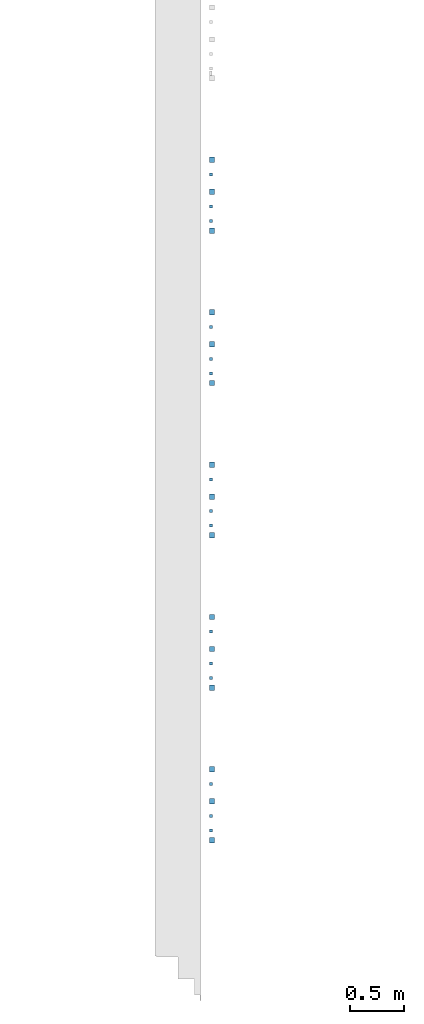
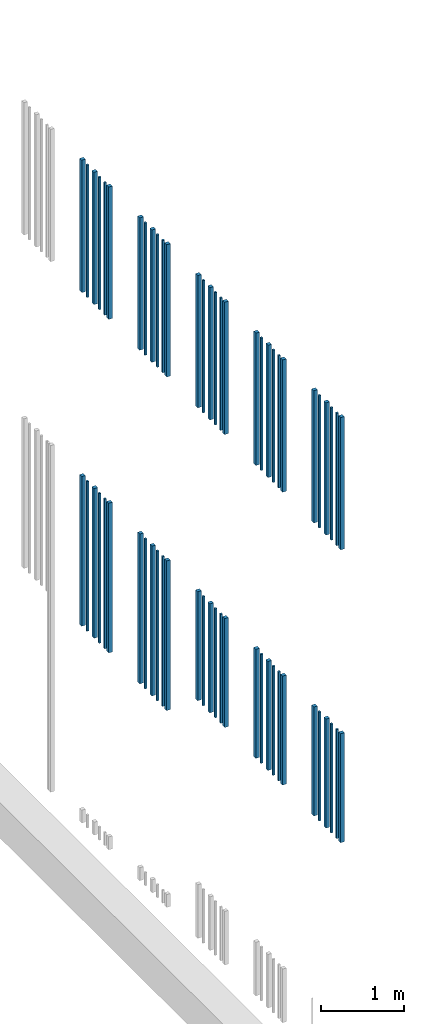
# One storey, part 21 of 124: 60 walls.
"""IFC2X3 building model written with IfcOpenShell, lengths in millimetres."""

from ifc_helpers import new_model, entity, si_unit, converted_unit, derived_unit, money_unit, direction, frame, origin_with_axes, place, context, subcontext, project, spatial, faceted_brep, material, type_object, element, save


model = new_model("IFC2X3")

# Units and contexts
model_context = context("Model", 3, precision=1e-05, world=origin_with_axes(), true_north=direction((0.0, 1.0)))
body_context = subcontext(model_context, "Body", "Model", "MODEL_VIEW")
ifc_project = project(units=[si_unit("LENGTHUNIT", "METRE", prefix="MILLI"), si_unit("AREAUNIT", "SQUARE_METRE"), si_unit("VOLUMEUNIT", "CUBIC_METRE"), converted_unit("PLANEANGLEUNIT", "DEGREE", entity("IfcPlaneAngleMeasure", 0.0174532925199), si_unit("PLANEANGLEUNIT", "RADIAN"), dimensions=[0, 0, 0, 0, 0, 0, 0]), si_unit("SOLIDANGLEUNIT", "STERADIAN"), money_unit("EUR"), converted_unit("TIMEUNIT", "Year", entity("IfcTimeMeasure", 31556926.0), si_unit("TIMEUNIT", "SECOND"), dimensions=[0, 0, 1, 0, 0, 0, 0]), si_unit("MASSUNIT", "GRAM", prefix="KILO"), si_unit("THERMODYNAMICTEMPERATUREUNIT", "DEGREE_CELSIUS"), si_unit("LUMINOUSINTENSITYUNIT", "LUMEN"), si_unit("ENERGYUNIT", "JOULE", prefix="MEGA"), derived_unit("THERMALCONDUCTANCEUNIT", [(si_unit("POWERUNIT", "WATT"), 1), (si_unit("LENGTHUNIT", "METRE"), -1), (si_unit("THERMODYNAMICTEMPERATUREUNIT", "KELVIN"), -1)]), derived_unit("SPECIFICHEATCAPACITYUNIT", [(si_unit("ENERGYUNIT", "JOULE"), 1), (si_unit("MASSUNIT", "GRAM", prefix="KILO"), -1), (si_unit("THERMODYNAMICTEMPERATUREUNIT", "KELVIN"), -1)]), derived_unit("MASSDENSITYUNIT", [(si_unit("MASSUNIT", "GRAM", prefix="KILO"), 1), (si_unit("VOLUMEUNIT", "CUBIC_METRE"), -1)])], contexts=[model_context])

# Site, building, storey
site_placement = place(None, origin_with_axes())
site = spatial("IfcSite", under=ifc_project, at=site_placement, Name="Site", CompositionType="ELEMENT")
building_placement = place(site_placement, origin_with_axes())
building = spatial("IfcBuilding", under=site, at=building_placement, Name="Building", CompositionType="ELEMENT")
storey_placement = place(building_placement, frame((0.0, 0.0, -1615.0), z_axis=(0.0, 0.0, 1.0), x_axis=(1.0, 0.0, 0.0)))
storey = spatial("IfcBuildingStorey", under=building, at=storey_placement, Name="0  korrus", CompositionType="ELEMENT", Elevation=-1615.0)

# Walls
ifc_material = material(Name="Site specified")
wall_type = type_object("IfcWallType", Name="Puitfassaadi ribistik", PredefinedType="NOTDEFINED")
wall_1_placement = place(storey_placement, frame((139811.999996, 47474.806266, 5215.0), z_axis=(0.0, 0.0, 1.0), x_axis=(5.16795808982e-08, -1.0, 0.0)))
element("IfcWall", 1, at=wall_1_placement, inside=storey, type_object=wall_type, material=ifc_material, Name="Site specified", context=body_context, shape_type="Brep", body=[
    faceted_brep([(25.0, 25.0, 1606.0), (25.0, 25.0, 0.0), (-25.0, 25.0, 0.0), (-25.0, 25.0, 1606.0), (25.0, -25.0, 1606.0), (25.0, -25.0, 0.0), (-25.0, -25.0, 0.0), (-25.0, -25.0, 1606.0)], [[[0, 1, 2, 3]], [[4, 5, 1, 0]], [[2, 1, 5, 6]], [[3, 2, 6, 7]], [[4, 0, 3, 7]], [[7, 6, 5, 4]]]),
])
for number, where, z_axis, x_axis, name in (
    (2, (139801.000003, 47339.803775, 5215.0), (0.0, 0.0, 1.0), (5.16795808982e-08, -1.0, 0.0), "Site specified"),
    (3, (139801.000025, 46913.8038047, 5215.0), (0.0, 0.0, 1.0), (5.16795808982e-08, -1.0, 0.0), "Site specified"),
    (4, (139801.000018, 47046.8038039, 5215.0), (0.0, 0.0, 1.0), (5.16795808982e-08, -1.0, 0.0), "Site specified"),
):
    element("IfcWall", number, at=place(storey_placement, frame(where, z_axis=z_axis, x_axis=x_axis)), inside=storey, type_object=wall_type, material=ifc_material, Name=name, context=body_context, shape_type="Brep", body=[
        faceted_brep([(14.0, 14.0, 1606.0), (14.0, 14.0, 0.0), (-14.0, 14.0, 0.0), (-14.0, 14.0, 1606.0), (14.0, -14.0, 1606.0), (14.0, -14.0, 0.0), (-14.0, -14.0, 0.0), (-14.0, -14.0, 1606.0)], [[[0, 1, 2, 3]], [[4, 5, 1, 0]], [[2, 1, 5, 6]], [[3, 2, 6, 7]], [[4, 0, 3, 7]], [[7, 6, 5, 4]]]),
    ])
for number, where, z_axis, x_axis, name in (
    (5, (139812.000029, 46824.8006349, 5215.0), (0.0, 0.0, 1.0), (5.16795808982e-08, -1.0, 0.0), "Site specified"),
    (6, (139812.000011, 47180.8062682, 5215.0), (0.0, 0.0, 1.0), (5.16795808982e-08, -1.0, 0.0), "Site specified"),
):
    element("IfcWall", number, at=place(storey_placement, frame(where, z_axis=z_axis, x_axis=x_axis)), inside=storey, type_object=wall_type, material=ifc_material, Name=name, context=body_context, shape_type="Brep", body=[
        faceted_brep([(25.0, 25.0, 1606.0), (25.0, 25.0, 0.0), (-25.0, 25.0, 0.0), (-25.0, 25.0, 1606.0), (25.0, -25.0, 1606.0), (25.0, -25.0, 0.0), (-25.0, -25.0, 0.0), (-25.0, -25.0, 1606.0)], [[[0, 1, 2, 3]], [[4, 5, 1, 0]], [[2, 1, 5, 6]], [[3, 2, 6, 7]], [[4, 0, 3, 7]], [[7, 6, 5, 4]]]),
    ])
wall_2_placement = place(storey_placement, frame((139811.999996, 47474.806266, 9530.0), z_axis=(0.0, 0.0, 1.0), x_axis=(5.16795808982e-08, -1.0, 0.0)))
element("IfcWall", 7, at=wall_2_placement, inside=storey, type_object=wall_type, material=ifc_material, Name="Site specified", context=body_context, shape_type="Brep", body=[
    faceted_brep([(25.0, 25.0, 1950.0), (25.0, 25.0, 0.0), (-25.0, 25.0, 0.0), (-25.0, 25.0, 1950.0), (25.0, -25.0, 1950.0), (25.0, -25.0, 0.0), (-25.0, -25.0, 0.0), (-25.0, -25.0, 1950.0)], [[[0, 1, 2, 3]], [[4, 5, 1, 0]], [[2, 1, 5, 6]], [[3, 2, 6, 7]], [[4, 0, 3, 7]], [[7, 6, 5, 4]]]),
])
for number, where, z_axis, x_axis, name in (
    (8, (139801.000003, 47339.803775, 9530.0), (0.0, 0.0, 1.0), (5.16795808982e-08, -1.0, 0.0), "Site specified"),
    (9, (139801.000025, 46913.8038047, 9530.0), (0.0, 0.0, 1.0), (5.16795808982e-08, -1.0, 0.0), "Site specified"),
    (10, (139801.000018, 47046.8038039, 9530.0), (0.0, 0.0, 1.0), (5.16795808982e-08, -1.0, 0.0), "Site specified"),
):
    element("IfcWall", number, at=place(storey_placement, frame(where, z_axis=z_axis, x_axis=x_axis)), inside=storey, type_object=wall_type, material=ifc_material, Name=name, context=body_context, shape_type="Brep", body=[
        faceted_brep([(14.0, 14.0, 1950.0), (14.0, 14.0, 0.0), (-14.0, 14.0, 0.0), (-14.0, 14.0, 1950.0), (14.0, -14.0, 1950.0), (14.0, -14.0, 0.0), (-14.0, -14.0, 0.0), (-14.0, -14.0, 1950.0)], [[[0, 1, 2, 3]], [[4, 5, 1, 0]], [[2, 1, 5, 6]], [[3, 2, 6, 7]], [[4, 0, 3, 7]], [[7, 6, 5, 4]]]),
    ])
for number, where, z_axis, x_axis, name in (
    (11, (139812.000029, 46824.8006349, 9530.0), (0.0, 0.0, 1.0), (5.16795808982e-08, -1.0, 0.0), "Site specified"),
    (12, (139812.000011, 47180.8062682, 9530.0), (0.0, 0.0, 1.0), (5.16795808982e-08, -1.0, 0.0), "Site specified"),
    (13, (139812.000011, 49980.8062682, 9530.0), (0.0, 0.0, 1.0), (5.16795808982e-08, -1.0, 0.0), "Site specified"),
):
    element("IfcWall", number, at=place(storey_placement, frame(where, z_axis=z_axis, x_axis=x_axis)), inside=storey, type_object=wall_type, material=ifc_material, Name=name, context=body_context, shape_type="Brep", body=[
        faceted_brep([(25.0, 25.0, 1950.0), (25.0, 25.0, 0.0), (-25.0, 25.0, 0.0), (-25.0, 25.0, 1950.0), (25.0, -25.0, 1950.0), (25.0, -25.0, 0.0), (-25.0, -25.0, 0.0), (-25.0, -25.0, 1950.0)], [[[0, 1, 2, 3]], [[4, 5, 1, 0]], [[2, 1, 5, 6]], [[3, 2, 6, 7]], [[4, 0, 3, 7]], [[7, 6, 5, 4]]]),
    ])
wall_3_placement = place(storey_placement, frame((139811.999996, 48874.806266, 5215.0), z_axis=(0.0, 0.0, 1.0), x_axis=(5.16795808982e-08, -1.0, 0.0)))
element("IfcWall", 14, at=wall_3_placement, inside=storey, type_object=wall_type, material=ifc_material, Name="Site specified", context=body_context, shape_type="Brep", body=[
    faceted_brep([(25.0, 25.0, 1606.0), (25.0, 25.0, 0.0), (-25.0, 25.0, 0.0), (-25.0, 25.0, 1606.0), (25.0, -25.0, 1606.0), (25.0, -25.0, 0.0), (-25.0, -25.0, 0.0), (-25.0, -25.0, 1606.0)], [[[0, 1, 2, 3]], [[4, 5, 1, 0]], [[2, 1, 5, 6]], [[3, 2, 6, 7]], [[4, 0, 3, 7]], [[7, 6, 5, 4]]]),
])
for number, where, z_axis, x_axis, name in (
    (15, (139801.000003, 48739.803775, 5215.0), (0.0, 0.0, 1.0), (5.16795808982e-08, -1.0, 0.0), "Site specified"),
    (16, (139801.000025, 48313.8038047, 5215.0), (0.0, 0.0, 1.0), (5.16795808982e-08, -1.0, 0.0), "Site specified"),
    (17, (139801.000018, 48446.8038039, 5215.0), (0.0, 0.0, 1.0), (5.16795808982e-08, -1.0, 0.0), "Site specified"),
):
    element("IfcWall", number, at=place(storey_placement, frame(where, z_axis=z_axis, x_axis=x_axis)), inside=storey, type_object=wall_type, material=ifc_material, Name=name, context=body_context, shape_type="Brep", body=[
        faceted_brep([(14.0, 14.0, 1606.0), (14.0, 14.0, 0.0), (-14.0, 14.0, 0.0), (-14.0, 14.0, 1606.0), (14.0, -14.0, 1606.0), (14.0, -14.0, 0.0), (-14.0, -14.0, 0.0), (-14.0, -14.0, 1606.0)], [[[0, 1, 2, 3]], [[4, 5, 1, 0]], [[2, 1, 5, 6]], [[3, 2, 6, 7]], [[4, 0, 3, 7]], [[7, 6, 5, 4]]]),
    ])
for number, where, z_axis, x_axis, name in (
    (18, (139812.00003, 48224.8006349, 5215.0), (0.0, 0.0, 1.0), (5.16795808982e-08, -1.0, 0.0), "Site specified"),
    (19, (139812.000011, 48580.8062682, 5215.0), (0.0, 0.0, 1.0), (5.16795808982e-08, -1.0, 0.0), "Site specified"),
):
    element("IfcWall", number, at=place(storey_placement, frame(where, z_axis=z_axis, x_axis=x_axis)), inside=storey, type_object=wall_type, material=ifc_material, Name=name, context=body_context, shape_type="Brep", body=[
        faceted_brep([(25.0, 25.0, 1606.0), (25.0, 25.0, 0.0), (-25.0, 25.0, 0.0), (-25.0, 25.0, 1606.0), (25.0, -25.0, 1606.0), (25.0, -25.0, 0.0), (-25.0, -25.0, 0.0), (-25.0, -25.0, 1606.0)], [[[0, 1, 2, 3]], [[4, 5, 1, 0]], [[2, 1, 5, 6]], [[3, 2, 6, 7]], [[4, 0, 3, 7]], [[7, 6, 5, 4]]]),
    ])
wall_4_placement = place(storey_placement, frame((139811.999996, 48874.806266, 9530.0), z_axis=(0.0, 0.0, 1.0), x_axis=(5.16795808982e-08, -1.0, 0.0)))
element("IfcWall", 20, at=wall_4_placement, inside=storey, type_object=wall_type, material=ifc_material, Name="Site specified", context=body_context, shape_type="Brep", body=[
    faceted_brep([(25.0, 25.0, 1950.0), (25.0, 25.0, 0.0), (-25.0, 25.0, 0.0), (-25.0, 25.0, 1950.0), (25.0, -25.0, 1950.0), (25.0, -25.0, 0.0), (-25.0, -25.0, 0.0), (-25.0, -25.0, 1950.0)], [[[0, 1, 2, 3]], [[4, 5, 1, 0]], [[2, 1, 5, 6]], [[3, 2, 6, 7]], [[4, 0, 3, 7]], [[7, 6, 5, 4]]]),
])
for number, where, z_axis, x_axis, name in (
    (21, (139801.000003, 48739.803775, 9530.0), (0.0, 0.0, 1.0), (5.16795808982e-08, -1.0, 0.0), "Site specified"),
    (22, (139801.000025, 48313.8038047, 9530.0), (0.0, 0.0, 1.0), (5.16795808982e-08, -1.0, 0.0), "Site specified"),
    (23, (139801.000018, 48446.8038039, 9530.0), (0.0, 0.0, 1.0), (5.16795808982e-08, -1.0, 0.0), "Site specified"),
):
    element("IfcWall", number, at=place(storey_placement, frame(where, z_axis=z_axis, x_axis=x_axis)), inside=storey, type_object=wall_type, material=ifc_material, Name=name, context=body_context, shape_type="Brep", body=[
        faceted_brep([(14.0, 14.0, 1950.0), (14.0, 14.0, 0.0), (-14.0, 14.0, 0.0), (-14.0, 14.0, 1950.0), (14.0, -14.0, 1950.0), (14.0, -14.0, 0.0), (-14.0, -14.0, 0.0), (-14.0, -14.0, 1950.0)], [[[0, 1, 2, 3]], [[4, 5, 1, 0]], [[2, 1, 5, 6]], [[3, 2, 6, 7]], [[4, 0, 3, 7]], [[7, 6, 5, 4]]]),
    ])
for number, where, z_axis, x_axis, name in (
    (24, (139812.00003, 48224.8006349, 9530.0), (0.0, 0.0, 1.0), (5.16795808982e-08, -1.0, 0.0), "Site specified"),
    (25, (139812.000011, 48580.8062682, 9530.0), (0.0, 0.0, 1.0), (5.16795808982e-08, -1.0, 0.0), "Site specified"),
):
    element("IfcWall", number, at=place(storey_placement, frame(where, z_axis=z_axis, x_axis=x_axis)), inside=storey, type_object=wall_type, material=ifc_material, Name=name, context=body_context, shape_type="Brep", body=[
        faceted_brep([(25.0, 25.0, 1950.0), (25.0, 25.0, 0.0), (-25.0, 25.0, 0.0), (-25.0, 25.0, 1950.0), (25.0, -25.0, 1950.0), (25.0, -25.0, 0.0), (-25.0, -25.0, 0.0), (-25.0, -25.0, 1950.0)], [[[0, 1, 2, 3]], [[4, 5, 1, 0]], [[2, 1, 5, 6]], [[3, 2, 6, 7]], [[4, 0, 3, 7]], [[7, 6, 5, 4]]]),
    ])
wall_5_placement = place(storey_placement, frame((139811.999996, 50274.806266, 5215.0), z_axis=(0.0, 0.0, 1.0), x_axis=(5.16795808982e-08, -1.0, 0.0)))
element("IfcWall", 26, at=wall_5_placement, inside=storey, type_object=wall_type, material=ifc_material, Name="Site specified", context=body_context, shape_type="Brep", body=[
    faceted_brep([(25.0, 25.0, 1606.0), (25.0, 25.0, 0.0), (-25.0, 25.0, 0.0), (-25.0, 25.0, 1606.0), (25.0, -25.0, 1606.0), (25.0, -25.0, 0.0), (-25.0, -25.0, 0.0), (-25.0, -25.0, 1606.0)], [[[0, 1, 2, 3]], [[4, 5, 1, 0]], [[2, 1, 5, 6]], [[3, 2, 6, 7]], [[4, 0, 3, 7]], [[7, 6, 5, 4]]]),
])
for number, where, z_axis, x_axis, name in (
    (27, (139801.000003, 50139.803775, 5215.0), (0.0, 0.0, 1.0), (5.16795808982e-08, -1.0, 0.0), "Site specified"),
    (28, (139801.000025, 49713.8038047, 5215.0), (0.0, 0.0, 1.0), (5.16795808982e-08, -1.0, 0.0), "Site specified"),
    (29, (139801.000018, 49846.8038039, 5215.0), (0.0, 0.0, 1.0), (5.16795808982e-08, -1.0, 0.0), "Site specified"),
):
    element("IfcWall", number, at=place(storey_placement, frame(where, z_axis=z_axis, x_axis=x_axis)), inside=storey, type_object=wall_type, material=ifc_material, Name=name, context=body_context, shape_type="Brep", body=[
        faceted_brep([(14.0, 14.0, 1606.0), (14.0, 14.0, 0.0), (-14.0, 14.0, 0.0), (-14.0, 14.0, 1606.0), (14.0, -14.0, 1606.0), (14.0, -14.0, 0.0), (-14.0, -14.0, 0.0), (-14.0, -14.0, 1606.0)], [[[0, 1, 2, 3]], [[4, 5, 1, 0]], [[2, 1, 5, 6]], [[3, 2, 6, 7]], [[4, 0, 3, 7]], [[7, 6, 5, 4]]]),
    ])
for number, where, z_axis, x_axis, name in (
    (30, (139812.000029, 49624.8006349, 5215.0), (0.0, 0.0, 1.0), (5.16795808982e-08, -1.0, 0.0), "Site specified"),
    (31, (139812.000011, 49980.8062682, 5215.0), (0.0, 0.0, 1.0), (5.16795808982e-08, -1.0, 0.0), "Site specified"),
):
    element("IfcWall", number, at=place(storey_placement, frame(where, z_axis=z_axis, x_axis=x_axis)), inside=storey, type_object=wall_type, material=ifc_material, Name=name, context=body_context, shape_type="Brep", body=[
        faceted_brep([(25.0, 25.0, 1606.0), (25.0, 25.0, 0.0), (-25.0, 25.0, 0.0), (-25.0, 25.0, 1606.0), (25.0, -25.0, 1606.0), (25.0, -25.0, 0.0), (-25.0, -25.0, 0.0), (-25.0, -25.0, 1606.0)], [[[0, 1, 2, 3]], [[4, 5, 1, 0]], [[2, 1, 5, 6]], [[3, 2, 6, 7]], [[4, 0, 3, 7]], [[7, 6, 5, 4]]]),
    ])
wall_6_placement = place(storey_placement, frame((139811.999996, 50274.806266, 9530.0), z_axis=(0.0, 0.0, 1.0), x_axis=(5.16795808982e-08, -1.0, 0.0)))
element("IfcWall", 32, at=wall_6_placement, inside=storey, type_object=wall_type, material=ifc_material, Name="Site specified", context=body_context, shape_type="Brep", body=[
    faceted_brep([(25.0, 25.0, 1950.0), (25.0, 25.0, 0.0), (-25.0, 25.0, 0.0), (-25.0, 25.0, 1950.0), (25.0, -25.0, 1950.0), (25.0, -25.0, 0.0), (-25.0, -25.0, 0.0), (-25.0, -25.0, 1950.0)], [[[0, 1, 2, 3]], [[4, 5, 1, 0]], [[2, 1, 5, 6]], [[3, 2, 6, 7]], [[4, 0, 3, 7]], [[7, 6, 5, 4]]]),
])
for number, where, z_axis, x_axis, name in (
    (33, (139801.000003, 50139.803775, 9530.0), (0.0, 0.0, 1.0), (5.16795808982e-08, -1.0, 0.0), "Site specified"),
    (34, (139801.000025, 49713.8038047, 9530.0), (0.0, 0.0, 1.0), (5.16795808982e-08, -1.0, 0.0), "Site specified"),
    (35, (139801.000018, 49846.8038039, 9530.0), (0.0, 0.0, 1.0), (5.16795808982e-08, -1.0, 0.0), "Site specified"),
):
    element("IfcWall", number, at=place(storey_placement, frame(where, z_axis=z_axis, x_axis=x_axis)), inside=storey, type_object=wall_type, material=ifc_material, Name=name, context=body_context, shape_type="Brep", body=[
        faceted_brep([(14.0, 14.0, 1950.0), (14.0, 14.0, 0.0), (-14.0, 14.0, 0.0), (-14.0, 14.0, 1950.0), (14.0, -14.0, 1950.0), (14.0, -14.0, 0.0), (-14.0, -14.0, 0.0), (-14.0, -14.0, 1950.0)], [[[0, 1, 2, 3]], [[4, 5, 1, 0]], [[2, 1, 5, 6]], [[3, 2, 6, 7]], [[4, 0, 3, 7]], [[7, 6, 5, 4]]]),
    ])
for number, where, z_axis, x_axis, name in (
    (36, (139812.000029, 49624.8006349, 9530.0), (0.0, 0.0, 1.0), (5.16795808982e-08, -1.0, 0.0), "Site specified"),
    (37, (139812.000029, 52424.8006349, 9530.0), (0.0, 0.0, 1.0), (5.16795808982e-08, -1.0, 0.0), "Site specified"),
):
    element("IfcWall", number, at=place(storey_placement, frame(where, z_axis=z_axis, x_axis=x_axis)), inside=storey, type_object=wall_type, material=ifc_material, Name=name, context=body_context, shape_type="Brep", body=[
        faceted_brep([(25.0, 25.0, 1950.0), (25.0, 25.0, 0.0), (-25.0, 25.0, 0.0), (-25.0, 25.0, 1950.0), (25.0, -25.0, 1950.0), (25.0, -25.0, 0.0), (-25.0, -25.0, 0.0), (-25.0, -25.0, 1950.0)], [[[0, 1, 2, 3]], [[4, 5, 1, 0]], [[2, 1, 5, 6]], [[3, 2, 6, 7]], [[4, 0, 3, 7]], [[7, 6, 5, 4]]]),
    ])
wall_7_placement = place(storey_placement, frame((139811.999995, 51674.806266, 4615.0), z_axis=(0.0, 0.0, 1.0), x_axis=(5.16795808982e-08, -1.0, 0.0)))
element("IfcWall", 38, at=wall_7_placement, inside=storey, type_object=wall_type, material=ifc_material, Name="Site specified", context=body_context, shape_type="Brep", body=[
    faceted_brep([(25.0, 25.0, 2206.0), (25.0, 25.0, 0.0), (-25.0, 25.0, 0.0), (-25.0, 25.0, 2206.0), (25.0, -25.0, 2206.0), (25.0, -25.0, 0.0), (-25.0, -25.0, 0.0), (-25.0, -25.0, 2206.0)], [[[0, 1, 2, 3]], [[4, 5, 1, 0]], [[2, 1, 5, 6]], [[3, 2, 6, 7]], [[4, 0, 3, 7]], [[7, 6, 5, 4]]]),
])
for number, where, z_axis, x_axis, name in (
    (39, (139801.000002, 51539.803775, 4615.0), (0.0, 0.0, 1.0), (5.16795808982e-08, -1.0, 0.0), "Site specified"),
    (40, (139801.000024, 51113.8038047, 4615.0), (0.0, 0.0, 1.0), (5.16795808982e-08, -1.0, 0.0), "Site specified"),
    (41, (139801.000018, 51246.8038039, 4615.0), (0.0, 0.0, 1.0), (5.16795808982e-08, -1.0, 0.0), "Site specified"),
):
    element("IfcWall", number, at=place(storey_placement, frame(where, z_axis=z_axis, x_axis=x_axis)), inside=storey, type_object=wall_type, material=ifc_material, Name=name, context=body_context, shape_type="Brep", body=[
        faceted_brep([(14.0, 14.0, 2206.0), (14.0, 14.0, 0.0), (-14.0, 14.0, 0.0), (-14.0, 14.0, 2206.0), (14.0, -14.0, 2206.0), (14.0, -14.0, 0.0), (-14.0, -14.0, 0.0), (-14.0, -14.0, 2206.0)], [[[0, 1, 2, 3]], [[4, 5, 1, 0]], [[2, 1, 5, 6]], [[3, 2, 6, 7]], [[4, 0, 3, 7]], [[7, 6, 5, 4]]]),
    ])
for number, where, z_axis, x_axis, name in (
    (42, (139812.000029, 51024.8006349, 4615.0), (0.0, 0.0, 1.0), (5.16795808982e-08, -1.0, 0.0), "Site specified"),
    (43, (139812.000011, 51380.8062682, 4615.0), (0.0, 0.0, 1.0), (5.16795808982e-08, -1.0, 0.0), "Site specified"),
):
    element("IfcWall", number, at=place(storey_placement, frame(where, z_axis=z_axis, x_axis=x_axis)), inside=storey, type_object=wall_type, material=ifc_material, Name=name, context=body_context, shape_type="Brep", body=[
        faceted_brep([(25.0, 25.0, 2206.0), (25.0, 25.0, 0.0), (-25.0, 25.0, 0.0), (-25.0, 25.0, 2206.0), (25.0, -25.0, 2206.0), (25.0, -25.0, 0.0), (-25.0, -25.0, 0.0), (-25.0, -25.0, 2206.0)], [[[0, 1, 2, 3]], [[4, 5, 1, 0]], [[2, 1, 5, 6]], [[3, 2, 6, 7]], [[4, 0, 3, 7]], [[7, 6, 5, 4]]]),
    ])
wall_8_placement = place(storey_placement, frame((139811.999995, 51674.806266, 9530.0), z_axis=(0.0, 0.0, 1.0), x_axis=(5.16795808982e-08, -1.0, 0.0)))
element("IfcWall", 44, at=wall_8_placement, inside=storey, type_object=wall_type, material=ifc_material, Name="Site specified", context=body_context, shape_type="Brep", body=[
    faceted_brep([(25.0, 25.0, 1950.0), (25.0, 25.0, 0.0), (-25.0, 25.0, 0.0), (-25.0, 25.0, 1950.0), (25.0, -25.0, 1950.0), (25.0, -25.0, 0.0), (-25.0, -25.0, 0.0), (-25.0, -25.0, 1950.0)], [[[0, 1, 2, 3]], [[4, 5, 1, 0]], [[2, 1, 5, 6]], [[3, 2, 6, 7]], [[4, 0, 3, 7]], [[7, 6, 5, 4]]]),
])
for number, where, z_axis, x_axis, name in (
    (45, (139801.000002, 51539.803775, 9530.0), (0.0, 0.0, 1.0), (5.16795808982e-08, -1.0, 0.0), "Site specified"),
    (46, (139801.000024, 51113.8038047, 9530.0), (0.0, 0.0, 1.0), (5.16795808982e-08, -1.0, 0.0), "Site specified"),
    (47, (139801.000018, 51246.8038039, 9530.0), (0.0, 0.0, 1.0), (5.16795808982e-08, -1.0, 0.0), "Site specified"),
):
    element("IfcWall", number, at=place(storey_placement, frame(where, z_axis=z_axis, x_axis=x_axis)), inside=storey, type_object=wall_type, material=ifc_material, Name=name, context=body_context, shape_type="Brep", body=[
        faceted_brep([(14.0, 14.0, 1950.0), (14.0, 14.0, 0.0), (-14.0, 14.0, 0.0), (-14.0, 14.0, 1950.0), (14.0, -14.0, 1950.0), (14.0, -14.0, 0.0), (-14.0, -14.0, 0.0), (-14.0, -14.0, 1950.0)], [[[0, 1, 2, 3]], [[4, 5, 1, 0]], [[2, 1, 5, 6]], [[3, 2, 6, 7]], [[4, 0, 3, 7]], [[7, 6, 5, 4]]]),
    ])
for number, where, z_axis, x_axis, name in (
    (48, (139812.000029, 51024.8006349, 9530.0), (0.0, 0.0, 1.0), (5.16795808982e-08, -1.0, 0.0), "Site specified"),
    (49, (139812.000011, 51380.8062682, 9530.0), (0.0, 0.0, 1.0), (5.16795808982e-08, -1.0, 0.0), "Site specified"),
):
    element("IfcWall", number, at=place(storey_placement, frame(where, z_axis=z_axis, x_axis=x_axis)), inside=storey, type_object=wall_type, material=ifc_material, Name=name, context=body_context, shape_type="Brep", body=[
        faceted_brep([(25.0, 25.0, 1950.0), (25.0, 25.0, 0.0), (-25.0, 25.0, 0.0), (-25.0, 25.0, 1950.0), (25.0, -25.0, 1950.0), (25.0, -25.0, 0.0), (-25.0, -25.0, 0.0), (-25.0, -25.0, 1950.0)], [[[0, 1, 2, 3]], [[4, 5, 1, 0]], [[2, 1, 5, 6]], [[3, 2, 6, 7]], [[4, 0, 3, 7]], [[7, 6, 5, 4]]]),
    ])
wall_9_placement = place(storey_placement, frame((139811.999996, 53074.806266, 4615.0), z_axis=(0.0, 0.0, 1.0), x_axis=(5.16795808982e-08, -1.0, 0.0)))
element("IfcWall", 50, at=wall_9_placement, inside=storey, type_object=wall_type, material=ifc_material, Name="Site specified", context=body_context, shape_type="Brep", body=[
    faceted_brep([(25.0, 25.0, 2206.0), (25.0, 25.0, 0.0), (-25.0, 25.0, 0.0), (-25.0, 25.0, 2206.0), (25.0, -25.0, 2206.0), (25.0, -25.0, 0.0), (-25.0, -25.0, 0.0), (-25.0, -25.0, 2206.0)], [[[0, 1, 2, 3]], [[4, 5, 1, 0]], [[2, 1, 5, 6]], [[3, 2, 6, 7]], [[4, 0, 3, 7]], [[7, 6, 5, 4]]]),
])
for number, where, z_axis, x_axis, name in (
    (51, (139801.000003, 52939.803775, 4615.0), (0.0, 0.0, 1.0), (5.16795808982e-08, -1.0, 0.0), "Site specified"),
    (52, (139801.000025, 52513.8038047, 4615.0), (0.0, 0.0, 1.0), (5.16795808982e-08, -1.0, 0.0), "Site specified"),
    (53, (139801.000018, 52646.8038039, 4615.0), (0.0, 0.0, 1.0), (5.16795808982e-08, -1.0, 0.0), "Site specified"),
):
    element("IfcWall", number, at=place(storey_placement, frame(where, z_axis=z_axis, x_axis=x_axis)), inside=storey, type_object=wall_type, material=ifc_material, Name=name, context=body_context, shape_type="Brep", body=[
        faceted_brep([(14.0, 14.0, 2206.0), (14.0, 14.0, 0.0), (-14.0, 14.0, 0.0), (-14.0, 14.0, 2206.0), (14.0, -14.0, 2206.0), (14.0, -14.0, 0.0), (-14.0, -14.0, 0.0), (-14.0, -14.0, 2206.0)], [[[0, 1, 2, 3]], [[4, 5, 1, 0]], [[2, 1, 5, 6]], [[3, 2, 6, 7]], [[4, 0, 3, 7]], [[7, 6, 5, 4]]]),
    ])
for number, where, z_axis, x_axis, name in (
    (54, (139812.000029, 52424.8006349, 4615.0), (0.0, 0.0, 1.0), (5.16795808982e-08, -1.0, 0.0), "Site specified"),
    (55, (139812.000011, 52780.8062682, 4615.0), (0.0, 0.0, 1.0), (5.16795808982e-08, -1.0, 0.0), "Site specified"),
):
    element("IfcWall", number, at=place(storey_placement, frame(where, z_axis=z_axis, x_axis=x_axis)), inside=storey, type_object=wall_type, material=ifc_material, Name=name, context=body_context, shape_type="Brep", body=[
        faceted_brep([(25.0, 25.0, 2206.0), (25.0, 25.0, 0.0), (-25.0, 25.0, 0.0), (-25.0, 25.0, 2206.0), (25.0, -25.0, 2206.0), (25.0, -25.0, 0.0), (-25.0, -25.0, 0.0), (-25.0, -25.0, 2206.0)], [[[0, 1, 2, 3]], [[4, 5, 1, 0]], [[2, 1, 5, 6]], [[3, 2, 6, 7]], [[4, 0, 3, 7]], [[7, 6, 5, 4]]]),
    ])
wall_10_placement = place(storey_placement, frame((139811.999996, 53074.806266, 9530.0), z_axis=(0.0, 0.0, 1.0), x_axis=(5.16795808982e-08, -1.0, 0.0)))
element("IfcWall", 56, at=wall_10_placement, inside=storey, type_object=wall_type, material=ifc_material, Name="Site specified", context=body_context, shape_type="Brep", body=[
    faceted_brep([(25.0, 25.0, 1950.0), (25.0, 25.0, 0.0), (-25.0, 25.0, 0.0), (-25.0, 25.0, 1950.0), (25.0, -25.0, 1950.0), (25.0, -25.0, 0.0), (-25.0, -25.0, 0.0), (-25.0, -25.0, 1950.0)], [[[0, 1, 2, 3]], [[4, 5, 1, 0]], [[2, 1, 5, 6]], [[3, 2, 6, 7]], [[4, 0, 3, 7]], [[7, 6, 5, 4]]]),
])
for number, where, z_axis, x_axis, name in (
    (57, (139801.000003, 52939.803775, 9530.0), (0.0, 0.0, 1.0), (5.16795808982e-08, -1.0, 0.0), "Site specified"),
    (58, (139801.000025, 52513.8038047, 9530.0), (0.0, 0.0, 1.0), (5.16795808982e-08, -1.0, 0.0), "Site specified"),
    (59, (139801.000018, 52646.8038039, 9530.0), (0.0, 0.0, 1.0), (5.16795808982e-08, -1.0, 0.0), "Site specified"),
):
    element("IfcWall", number, at=place(storey_placement, frame(where, z_axis=z_axis, x_axis=x_axis)), inside=storey, type_object=wall_type, material=ifc_material, Name=name, context=body_context, shape_type="Brep", body=[
        faceted_brep([(14.0, 14.0, 1950.0), (14.0, 14.0, 0.0), (-14.0, 14.0, 0.0), (-14.0, 14.0, 1950.0), (14.0, -14.0, 1950.0), (14.0, -14.0, 0.0), (-14.0, -14.0, 0.0), (-14.0, -14.0, 1950.0)], [[[0, 1, 2, 3]], [[4, 5, 1, 0]], [[2, 1, 5, 6]], [[3, 2, 6, 7]], [[4, 0, 3, 7]], [[7, 6, 5, 4]]]),
    ])
wall_11_placement = place(storey_placement, frame((139812.000011, 52780.8062682, 9530.0), z_axis=(0.0, 0.0, 1.0), x_axis=(5.16795808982e-08, -1.0, 0.0)))
element("IfcWall", 60, at=wall_11_placement, inside=storey, type_object=wall_type, material=ifc_material, Name="Site specified", context=body_context, shape_type="Brep", body=[
    faceted_brep([(25.0, 25.0, 1950.0), (25.0, 25.0, 0.0), (-25.0, 25.0, 0.0), (-25.0, 25.0, 1950.0), (25.0, -25.0, 1950.0), (25.0, -25.0, 0.0), (-25.0, -25.0, 0.0), (-25.0, -25.0, 1950.0)], [[[0, 1, 2, 3]], [[4, 5, 1, 0]], [[2, 1, 5, 6]], [[3, 2, 6, 7]], [[4, 0, 3, 7]], [[7, 6, 5, 4]]]),
])

save(model, "model.ifc")
